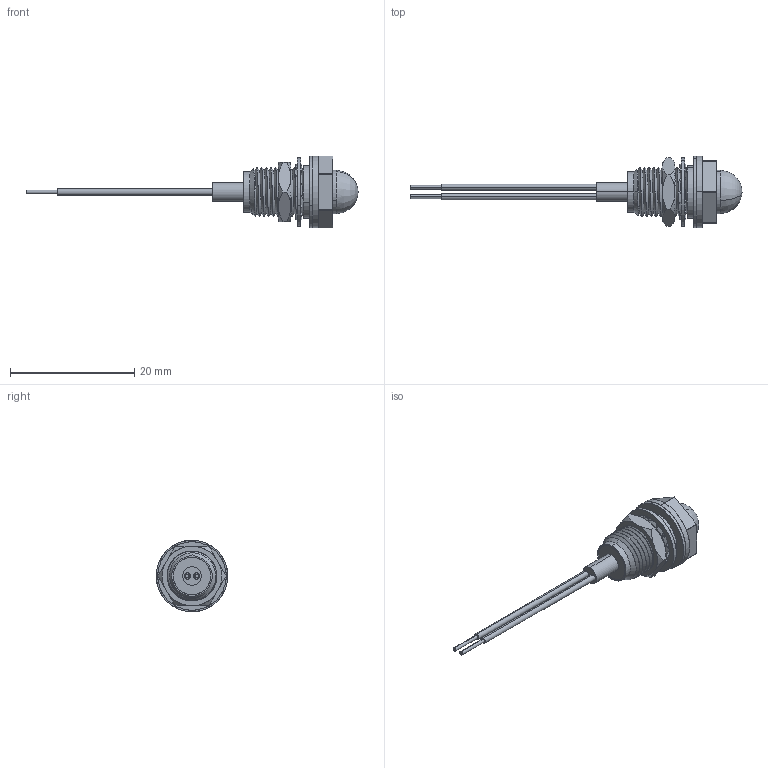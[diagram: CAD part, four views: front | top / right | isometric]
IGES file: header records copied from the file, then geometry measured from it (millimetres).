
Start section: SolidWorks IGES file using analytic representation for surfaces
Global section: file name: C:\Users\paulr\Desktop\665 WITH WIRES.IGS; native system: SolidWorks 2014; preprocessor: SolidWorks 2014; author: paulr; date: 140707.135320; units: millimetre
Bounding box: 53.4 x 11.5 x 11.5 mm (x, y, z)
Surface area: 1939.6 mm2 (no closed solid volume)
Topology: 0 solids, 0 shells, 291 faces, 3608 edges, 3606 vertices
Faces by surface type: bspline 167, revolution 124
